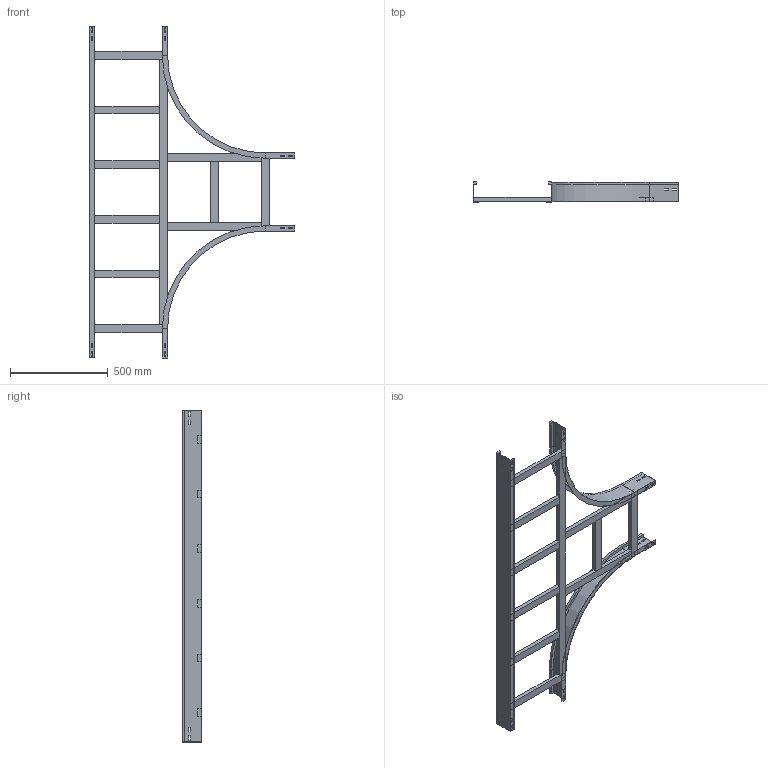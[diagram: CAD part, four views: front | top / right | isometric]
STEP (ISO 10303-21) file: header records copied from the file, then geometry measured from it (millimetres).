
FILE_DESCRIPTION (( 'STEP AP214' ), '1' );
FILE_NAME ('15B5D400.step', '2025-02-21T15:49:01', ( '' ), ( '' ), 'SwSTEP 2.0', 'SolidWorks 2023', '' );
FILE_SCHEMA (( 'AUTOMOTIVE_DESIGN' ));
Length unit declared in the file: millimetre
Products named in the file (8): TRAVERSINO_COPPIA_400; TRAVERSINO_INTERMEDIO_R500+400; TRAVERSINO_400; 15B5D400; TRAVERSINO_LONG._R500+400; TRAVERSINO_VERT_R500; LONGH.INTERNO 90°_H100_R500; LONGH.RETT_H100_R500+400
Assembly tree (14 placements, depth 2):
  15B5D400
    LONGH.INTERNO 90°_H100_R500  x2
    LONGH.RETT_H100_R500+400
    TRAVERSINO_400  x3
    TRAVERSINO_LONG._R500+400
    TRAVERSINO_INTERMEDIO_R500+400  x4
    TRAVERSINO_VERT_R500  x2
    TRAVERSINO_COPPIA_400
Bounding box: 1050 x 100 x 1700 mm (x, y, z)
Volume: 5963317.8 mm3; surface area: 1762603.9 mm2
Topology: 14 solids, 14 shells, 224 faces, 556 edges, 360 vertices
Faces by surface type: plane 216, cylinder 8
Entity records: 4209 total; most frequent: CARTESIAN_POINT 695, ORIENTED_EDGE 664, DIRECTION 634, EDGE_CURVE 332, VECTOR 324, LINE 324, VERTEX_POINT 216, EDGE_LOOP 162
